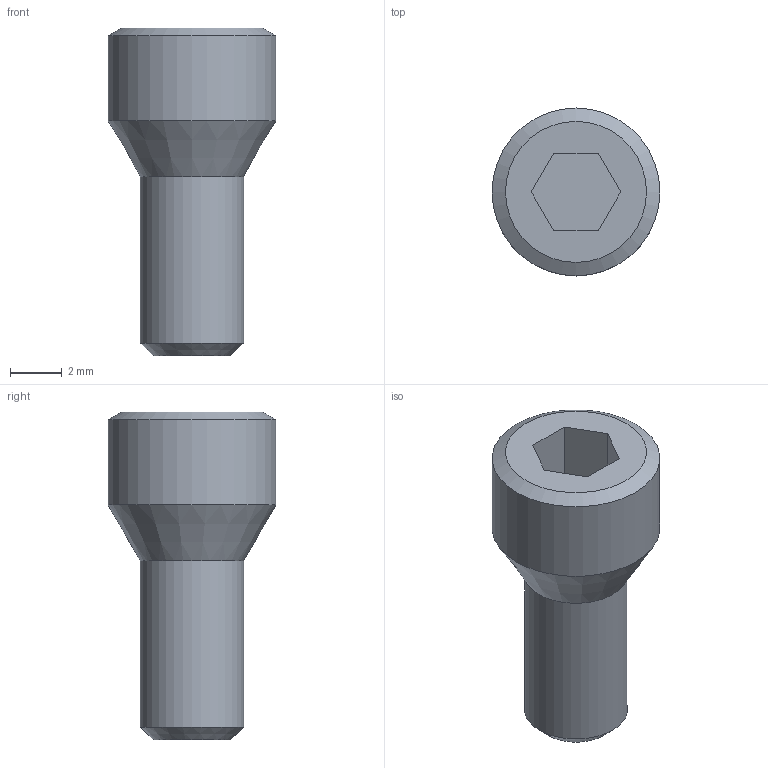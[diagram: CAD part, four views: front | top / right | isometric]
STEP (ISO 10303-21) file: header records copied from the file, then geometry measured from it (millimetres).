
FILE_DESCRIPTION(('STEP AP214'),'1');
FILE_NAME('TB25.stp','2021-10-25T05:53:32',(' '),(' '),'Spatial InterOp 3D',' ',' ');
FILE_SCHEMA(('AUTOMOTIVE_DESIGN { 1 0 10303 214 1 1 1 1 }'));
Length unit declared in the file: millimetre
Products named in the file (1): TB25
Bounding box: 6.5 x 6.5 x 12.7 mm (x, y, z)
Volume: 233.5 mm3; surface area: 262.9 mm2
Topology: 1 solids, 1 shells, 14 faces, 29 edges, 18 vertices
Faces by surface type: plane 9, cone 3, cylinder 2
Full cylindrical faces by diameter (mm): 4 x1, 6.5 x1
Entity records: 470 total; most frequent: DIRECTION 60, CARTESIAN_POINT 57, ORIENTED_EDGE 48, EDGE_CURVE 24, AXIS2_PLACEMENT_3D 21, EDGE_LOOP 20, VERTEX_POINT 18, LINE 18
